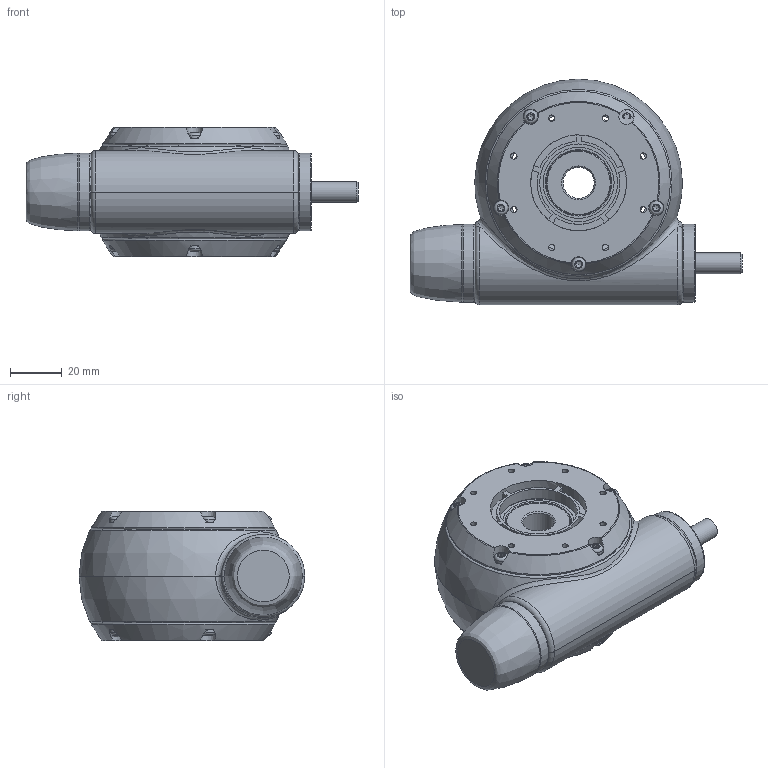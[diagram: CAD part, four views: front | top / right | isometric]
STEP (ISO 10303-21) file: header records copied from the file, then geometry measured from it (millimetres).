
FILE_DESCRIPTION(/* description */ (''),/* implementation_level */ '2;1');
FILE_NAME(/* name */ 'C:\ProgramData\PROCAD GmbH & Co. KG\NdfWork\343206_NdfWork\D00296334.step',/* time_stamp */ '2021-03-15T16:29:36+01:00',/* author */ ('fberger'),/* organization */ (''),/* preprocessor_version */ 'ST-DEVELOPER v18.1',/* originating_system */ 'Autodesk Inventor 2020',/* authorisation */ '');
FILE_SCHEMA (('AUTOMOTIVE_DESIGN { 1 0 10303 214 3 1 1 }'));
Length unit declared in the file: millimetre
Products named in the file (16): D00296334.iam; D00169642.ipt; D00169186.ipt; D00188918.ipt; D00184198.ipt; D00192693.ipt; D00188941.ipt; D00169185; D00187704.ipt; D00187700.ipt; D00187707.ipt; D00189727.ipt; D00296245.ipt; D00169074.ipt; D00170045.ipt; D00169073.ipt
Assembly tree (31 placements, depth 2):
  D00296334.iam
    D00169642.ipt  x2
    D00169186.ipt  x2
    D00188918.ipt  x2
    D00184198.ipt  x4
    D00192693.ipt
    D00188941.ipt  x2
    D00169185  x2
    D00187704.ipt  x2
    D00187700.ipt  x4
    D00187707.ipt  x4
    D00189727.ipt
    D00296245.ipt
    D00169074.ipt
    D00170045.ipt  x2
    D00169073.ipt
Bounding box: 128 x 87 x 50 mm (x, y, z)
Volume: 133342.3 mm3; surface area: 110087.3 mm2
Topology: 71 solids, 71 shells, 1039 faces, 2739 edges, 1871 vertices
Faces by surface type: cylinder 435, plane 295, cone 124, torus 98, sphere 80, bspline 7
Full cylindrical faces by diameter (mm): 2 x8, 2.4 x16, 3 x10, 3.3 x20, 4 x18, 5.3 x10, 8 x11, 8.32 x2, 10 x4, 12 x3, 15 x4, 15.68 x2, 16 x4, 17 x3, 20 x2, 23 x2, 24 x1, 25 x4, 26 x2, 27.4 x8, 28.5 x4, 30 x4, 33.3 x4, 34.3 x8, 37 x8, 41 x2, 52.5 x1, 55 x2
Entity records: 18449 total; most frequent: CARTESIAN_POINT 3951, DIRECTION 3138, ORIENTED_EDGE 2662, AXIS2_PLACEMENT_3D 1341, EDGE_CURVE 1331, VERTEX_POINT 930, CIRCLE 772, EDGE_LOOP 675
